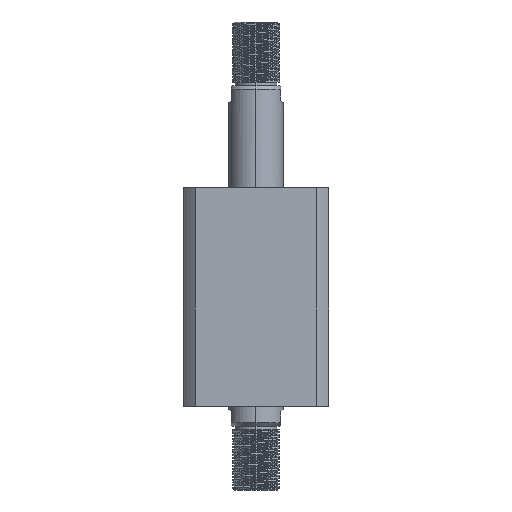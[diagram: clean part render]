
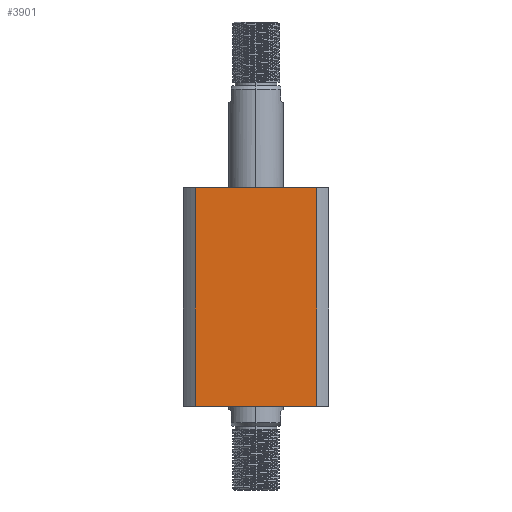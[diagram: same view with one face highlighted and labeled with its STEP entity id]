
A CAD part, left-side view. The second image highlights one B-rep face of the part: STEP entity #3901.
In plain terms, the highlighted planar face has unit normal (-1, 0, 0).
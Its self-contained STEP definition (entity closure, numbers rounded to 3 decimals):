
#245 = VERTEX_POINT ( 'NONE', #8704 ) ;
#548 = ORIENTED_EDGE ( 'NONE', *, *, #2785, .F. ) ;
#738 = DIRECTION ( 'NONE',  ( 0., 1., 0. ) ) ;
#2171 = CARTESIAN_POINT ( 'NONE',  ( -40., 33.226, -60. ) ) ;
#2733 = DIRECTION ( 'NONE',  ( 0., 0., -1. ) ) ;
#2785 = EDGE_CURVE ( 'NONE', #245, #8721, #3346, .T. ) ;
#2865 = ORIENTED_EDGE ( 'NONE', *, *, #14738, .F. ) ;
#3346 = LINE ( 'NONE', #4311, #17384 ) ;
#3901 = ADVANCED_FACE ( 'NONE', ( #17022 ), #4671, .F. ) ;
#4311 = CARTESIAN_POINT ( 'NONE',  ( -40., -33.226, 60. ) ) ;
#4671 = PLANE ( 'NONE',  #12081 ) ;
#4996 = LINE ( 'NONE', #5539, #9043 ) ;
#5539 = CARTESIAN_POINT ( 'NONE',  ( -40., 33.226, 60. ) ) ;
#5808 = VERTEX_POINT ( 'NONE', #9539 ) ;
#6046 = EDGE_LOOP ( 'NONE', ( #7678, #548, #2865, #6275 ) ) ;
#6275 = ORIENTED_EDGE ( 'NONE', *, *, #10324, .T. ) ;
#6565 = EDGE_CURVE ( 'NONE', #5808, #8721, #7603, .T. ) ;
#7603 = LINE ( 'NONE', #2171, #13746 ) ;
#7678 = ORIENTED_EDGE ( 'NONE', *, *, #6565, .T. ) ;
#7757 = LINE ( 'NONE', #10936, #17111 ) ;
#8704 = CARTESIAN_POINT ( 'NONE',  ( -40., -33.226, 60. ) ) ;
#8721 = VERTEX_POINT ( 'NONE', #10737 ) ;
#8770 = DIRECTION ( 'NONE',  ( 1., 0., 0. ) ) ;
#9043 = VECTOR ( 'NONE', #15066, 1000. ) ;
#9539 = CARTESIAN_POINT ( 'NONE',  ( -40., 33.226, -60. ) ) ;
#10324 = EDGE_CURVE ( 'NONE', #13886, #5808, #7757, .T. ) ;
#10737 = CARTESIAN_POINT ( 'NONE',  ( -40., -33.226, -60. ) ) ;
#10936 = CARTESIAN_POINT ( 'NONE',  ( -40., 33.226, 60. ) ) ;
#11890 = DIRECTION ( 'NONE',  ( 0., -1., 0. ) ) ;
#12081 = AXIS2_PLACEMENT_3D ( 'NONE', #17113, #8770, #738 ) ;
#12300 = DIRECTION ( 'NONE',  ( 0., 0., -1. ) ) ;
#13555 = CARTESIAN_POINT ( 'NONE',  ( -40., 33.226, 60. ) ) ;
#13746 = VECTOR ( 'NONE', #11890, 1000. ) ;
#13886 = VERTEX_POINT ( 'NONE', #13555 ) ;
#14738 = EDGE_CURVE ( 'NONE', #13886, #245, #4996, .T. ) ;
#15066 = DIRECTION ( 'NONE',  ( 0., -1., 0. ) ) ;
#17022 = FACE_OUTER_BOUND ( 'NONE', #6046, .T. ) ;
#17111 = VECTOR ( 'NONE', #12300, 1000. ) ;
#17113 = CARTESIAN_POINT ( 'NONE',  ( -40., 33.226, 60. ) ) ;
#17384 = VECTOR ( 'NONE', #2733, 1000. ) ;
